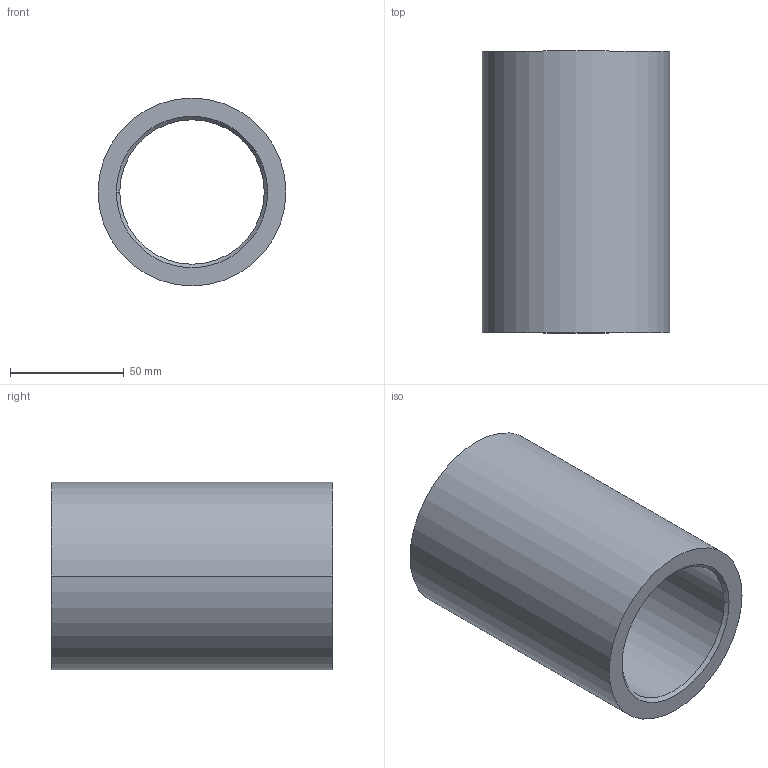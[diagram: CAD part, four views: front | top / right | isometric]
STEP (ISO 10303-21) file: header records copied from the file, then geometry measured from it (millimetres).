
FILE_DESCRIPTION (( 'STEP AP203' ), '1' );
FILE_NAME ('ST-700.step', '2014-02-28T21:05:00', ( '' ), ( '' ), 'SwSTEP 2.0', 'SolidWorks 2009', '' );
FILE_SCHEMA (( 'CONFIG_CONTROL_DESIGN' ));
Length unit declared in the file: inch
Products named in the file (1): ST-700
Bounding box: 82.56 x 123.83 x 82.56 mm (x, y, z)
Volume: 270283.7 mm3; surface area: 60886.7 mm2
Topology: 1 solids, 1 shells, 10 faces, 20 edges, 12 vertices
Faces by surface type: cylinder 4, cone 2, torus 2, plane 2
Entity records: 349 total; most frequent: DIRECTION 56, CARTESIAN_POINT 43, ORIENTED_EDGE 40, AXIS2_PLACEMENT_3D 25, EDGE_CURVE 20, CIRCLE 14, VERTEX_POINT 12, EDGE_LOOP 12
